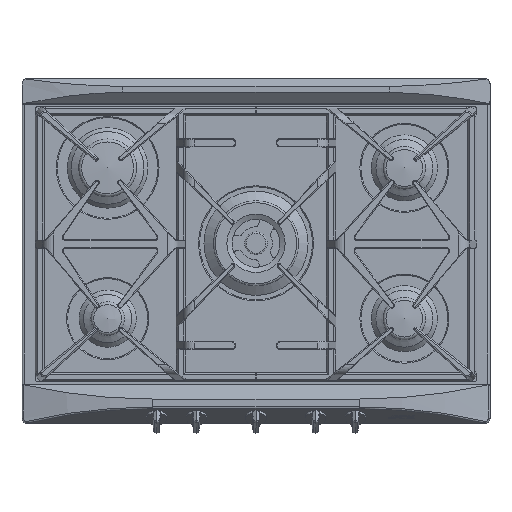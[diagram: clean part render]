
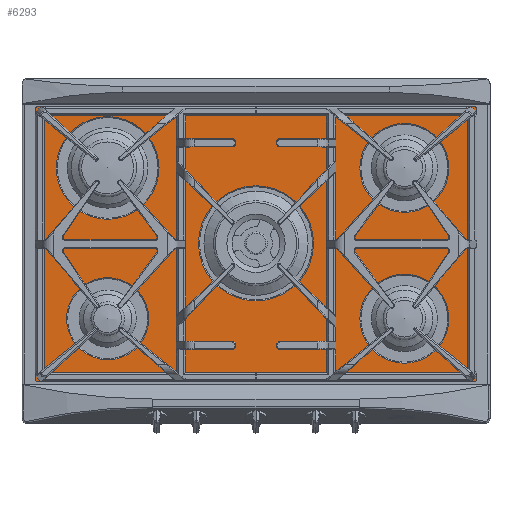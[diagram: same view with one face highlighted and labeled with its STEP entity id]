
A CAD part, top view. The second image highlights one B-rep face of the part: STEP entity #6293.
In plain terms, the highlighted planar face has unit normal (0, 0, 1).
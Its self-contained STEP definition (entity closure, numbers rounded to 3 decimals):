
#1427=LINE('',#34029,#2862);
#1431=LINE('',#34039,#2866);
#1434=LINE('',#34047,#2869);
#1437=LINE('',#34055,#2872);
#2862=VECTOR('',#26136,1.);
#2866=VECTOR('',#26146,1.);
#2869=VECTOR('',#26155,1.);
#2872=VECTOR('',#26164,1.);
#6293=ADVANCED_FACE('',(#7625,#7626,#7627,#7628,#7629,#7630),#7236,.T.);
#7236=PLANE('',#21926);
#7625=FACE_BOUND('',#8431,.T.);
#7626=FACE_BOUND('',#8432,.T.);
#7627=FACE_BOUND('',#8433,.T.);
#7628=FACE_BOUND('',#8434,.T.);
#7629=FACE_BOUND('',#8435,.T.);
#7630=FACE_BOUND('',#8436,.T.);
#8431=EDGE_LOOP('',(#11825));
#8432=EDGE_LOOP('',(#11826));
#8433=EDGE_LOOP('',(#11827));
#8434=EDGE_LOOP('',(#11828));
#8435=EDGE_LOOP('',(#11829));
#8436=EDGE_LOOP('',(#11830,#11831,#11832,#11833,#11834,#11835,#11836,#11837));
#11825=ORIENTED_EDGE('',*,*,#18262,.F.);
#11826=ORIENTED_EDGE('',*,*,#18263,.F.);
#11827=ORIENTED_EDGE('',*,*,#18264,.F.);
#11828=ORIENTED_EDGE('',*,*,#18265,.F.);
#11829=ORIENTED_EDGE('',*,*,#18266,.F.);
#11830=ORIENTED_EDGE('',*,*,#18247,.F.);
#11831=ORIENTED_EDGE('',*,*,#18250,.F.);
#11832=ORIENTED_EDGE('',*,*,#18252,.F.);
#11833=ORIENTED_EDGE('',*,*,#18254,.F.);
#11834=ORIENTED_EDGE('',*,*,#18256,.F.);
#11835=ORIENTED_EDGE('',*,*,#18258,.F.);
#11836=ORIENTED_EDGE('',*,*,#18260,.F.);
#11837=ORIENTED_EDGE('',*,*,#18261,.F.);
#15932=VERTEX_POINT('',#34028);
#15933=VERTEX_POINT('',#34030);
#15934=VERTEX_POINT('',#34034);
#15935=VERTEX_POINT('',#34038);
#15936=VERTEX_POINT('',#34042);
#15937=VERTEX_POINT('',#34046);
#15938=VERTEX_POINT('',#34050);
#15939=VERTEX_POINT('',#34054);
#15940=VERTEX_POINT('',#34060);
#15941=VERTEX_POINT('',#34062);
#15942=VERTEX_POINT('',#34064);
#15943=VERTEX_POINT('',#34066);
#15944=VERTEX_POINT('',#34068);
#18247=EDGE_CURVE('',#15932,#15933,#1427,.T.);
#18250=EDGE_CURVE('',#15934,#15932,#20268,.T.);
#18252=EDGE_CURVE('',#15935,#15934,#1431,.T.);
#18254=EDGE_CURVE('',#15936,#15935,#20269,.T.);
#18256=EDGE_CURVE('',#15937,#15936,#1434,.T.);
#18258=EDGE_CURVE('',#15938,#15937,#20270,.T.);
#18260=EDGE_CURVE('',#15939,#15938,#1437,.T.);
#18261=EDGE_CURVE('',#15933,#15939,#20271,.T.);
#18262=EDGE_CURVE('',#15940,#15940,#20272,.T.);
#18263=EDGE_CURVE('',#15941,#15941,#20273,.T.);
#18264=EDGE_CURVE('',#15942,#15942,#20274,.T.);
#18265=EDGE_CURVE('',#15943,#15943,#20275,.T.);
#18266=EDGE_CURVE('',#15944,#15944,#20276,.T.);
#20268=CIRCLE('',#21910,5.);
#20269=CIRCLE('',#21913,5.);
#20270=CIRCLE('',#21916,5.);
#20271=CIRCLE('',#21919,5.);
#20272=CIRCLE('',#21921,75.);
#20273=CIRCLE('',#21922,60.);
#20274=CIRCLE('',#21923,84.);
#20275=CIRCLE('',#21924,65.);
#20276=CIRCLE('',#21925,65.);
#21910=AXIS2_PLACEMENT_3D('',#34035,#26141,#26142);
#21913=AXIS2_PLACEMENT_3D('',#34043,#26150,#26151);
#21916=AXIS2_PLACEMENT_3D('',#34051,#26159,#26160);
#21919=AXIS2_PLACEMENT_3D('',#34057,#26167,#26168);
#21921=AXIS2_PLACEMENT_3D('',#34059,#26171,#26172);
#21922=AXIS2_PLACEMENT_3D('',#34061,#26173,#26174);
#21923=AXIS2_PLACEMENT_3D('',#34063,#26175,#26176);
#21924=AXIS2_PLACEMENT_3D('',#34065,#26177,#26178);
#21925=AXIS2_PLACEMENT_3D('',#34067,#26179,#26180);
#21926=AXIS2_PLACEMENT_3D('',#34069,#26181,#26182);
#26136=DIRECTION('',(0.,1.,0.));
#26141=DIRECTION('',(0.,0.,-1.));
#26142=DIRECTION('',(1.,0.,0.));
#26146=DIRECTION('',(-1.,0.,0.));
#26150=DIRECTION('',(0.,0.,-1.));
#26151=DIRECTION('',(1.,0.,0.));
#26155=DIRECTION('',(0.,-1.,0.));
#26159=DIRECTION('',(0.,0.,-1.));
#26160=DIRECTION('',(1.,0.,0.));
#26164=DIRECTION('',(1.,0.,0.));
#26167=DIRECTION('',(0.,0.,-1.));
#26168=DIRECTION('',(1.,0.,0.));
#26171=DIRECTION('',(0.,0.,1.));
#26172=DIRECTION('',(1.,0.,0.));
#26173=DIRECTION('',(0.,0.,1.));
#26174=DIRECTION('',(1.,0.,0.));
#26175=DIRECTION('',(0.,0.,1.));
#26176=DIRECTION('',(1.,0.,0.));
#26177=DIRECTION('',(0.,0.,1.));
#26178=DIRECTION('',(1.,0.,0.));
#26179=DIRECTION('',(0.,0.,1.));
#26180=DIRECTION('',(1.,0.,0.));
#26181=DIRECTION('',(0.,0.,1.));
#26182=DIRECTION('',(1.,0.,0.));
#34028=CARTESIAN_POINT('',(-442.739,-305.708,8.));
#34029=CARTESIAN_POINT('',(-442.739,86.292,8.));
#34030=CARTESIAN_POINT('',(-442.739,86.292,8.));
#34034=CARTESIAN_POINT('',(-437.739,-310.708,8.));
#34035=CARTESIAN_POINT('',(-437.739,-305.708,8.));
#34038=CARTESIAN_POINT('',(197.261,-310.708,8.));
#34039=CARTESIAN_POINT('',(-437.739,-310.708,8.));
#34042=CARTESIAN_POINT('',(202.261,-305.708,8.));
#34043=CARTESIAN_POINT('',(197.261,-305.708,8.));
#34046=CARTESIAN_POINT('',(202.261,86.292,8.));
#34047=CARTESIAN_POINT('',(202.261,-305.708,8.));
#34050=CARTESIAN_POINT('',(197.261,91.292,8.));
#34051=CARTESIAN_POINT('',(197.261,86.292,8.));
#34054=CARTESIAN_POINT('',(-437.739,91.292,8.));
#34055=CARTESIAN_POINT('',(197.261,91.292,8.));
#34057=CARTESIAN_POINT('',(-437.739,86.292,8.));
#34059=CARTESIAN_POINT('',(-336.739,1.542,8.));
#34060=CARTESIAN_POINT('',(-261.739,1.542,8.));
#34061=CARTESIAN_POINT('',(-336.739,-218.458,8.));
#34062=CARTESIAN_POINT('',(-276.739,-218.458,8.));
#34063=CARTESIAN_POINT('',(-120.239,-108.458,8.));
#34064=CARTESIAN_POINT('',(-36.239,-108.458,8.));
#34065=CARTESIAN_POINT('',(96.261,-218.458,8.));
#34066=CARTESIAN_POINT('',(161.261,-218.458,8.));
#34067=CARTESIAN_POINT('',(96.261,1.542,8.));
#34068=CARTESIAN_POINT('',(161.261,1.542,8.));
#34069=CARTESIAN_POINT('',(-437.739,-305.708,8.));
